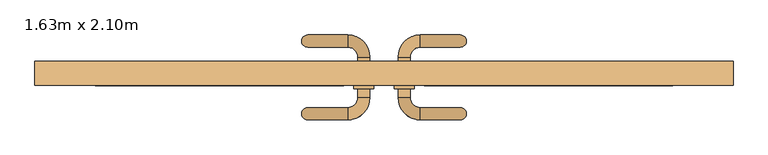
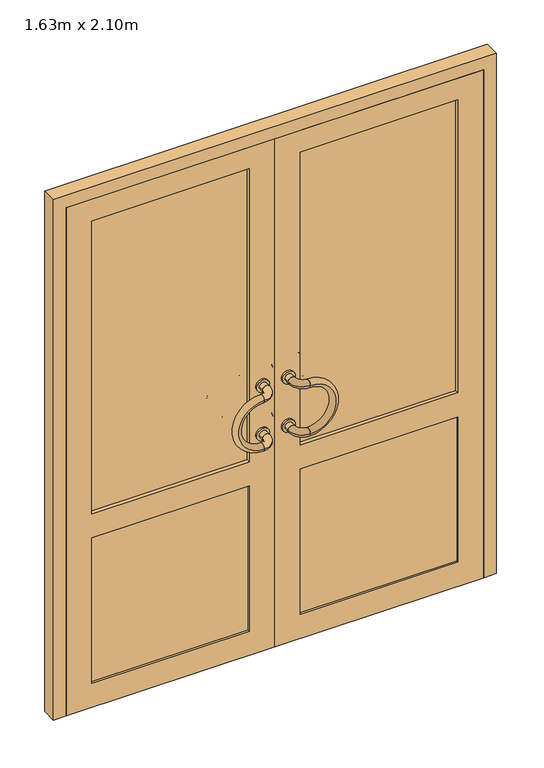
"""IFC4 building model written with IfcOpenShell, lengths in millimetres: door geometry, PVC Double - Panneaux vitrés haut : 1.63m x 2.10m."""

from ifc_helpers import new_model, si_unit, point, frame, frame_2d, origin, place, context, project, spatial, polyline, circle_curve, ellipse_curve, trimmed, segment, composite_curve, outline, extrude, faceted_brep, source, transform, mapped, element, save
from ifc_brep_helpers import plane_surface, revolved_surface, advanced_brep


def door_1_63m_x_2_10m_9088033a(model_context):
    return source(origin(), model_context, "Body", "SolidModel", [
        extrude(outline(composite_curve([segment(trimmed(circle_curve(frame_2d((1100.0, -50.0)), 25.0), [point((1100.0, -25.0))], [point((1100.0, -75.0))], False, "CARTESIAN"), True, "CONTINUOUS"), segment(trimmed(circle_curve(frame_2d((1100.0, -50.0)), 25.0), [point((1100.0, -75.0))], [point((1100.0, -25.0))], False, "CARTESIAN"), True, "CONTINUOUS")], self_intersect=False), holes=[composite_curve([segment(trimmed(circle_curve(frame_2d((1100.0, -50.0)), 15.0), [point((1100.0, -35.0))], [point((1100.0, -65.0))], True, "CARTESIAN"), True, "CONTINUOUS"), segment(trimmed(circle_curve(frame_2d((1100.0, -50.0)), 15.0), [point((1100.0, -65.0))], [point((1100.0, -35.0))], True, "CARTESIAN"), True, "CONTINUOUS")], self_intersect=False)]), frame((0.0, -45.0, 0.0), z_axis=(0.0, 1.0, 0.0), x_axis=(0.0, 0.0, 1.0)), (0.0, 0.0, 1.0), 8.0),
        extrude(outline(composite_curve([segment(trimmed(circle_curve(frame_2d((900.0, -50.0)), 25.0), [point((900.0, -25.0))], [point((900.0, -75.0))], False, "CARTESIAN"), True, "CONTINUOUS"), segment(trimmed(circle_curve(frame_2d((900.0, -50.0)), 25.0), [point((900.0, -75.0))], [point((900.0, -25.0))], False, "CARTESIAN"), True, "CONTINUOUS")], self_intersect=False), holes=[composite_curve([segment(trimmed(circle_curve(frame_2d((900.0, -50.0)), 15.0), [point((900.0, -35.0))], [point((900.0, -65.0))], True, "CARTESIAN"), True, "CONTINUOUS"), segment(trimmed(circle_curve(frame_2d((900.0, -50.0)), 15.0), [point((900.0, -65.0))], [point((900.0, -35.0))], True, "CARTESIAN"), True, "CONTINUOUS")], self_intersect=False)]), frame((0.0, -45.0, 0.0), z_axis=(0.0, 1.0, 0.0), x_axis=(0.0, 0.0, 1.0)), (0.0, 0.0, 1.0), 8.0),
        extrude(outline(composite_curve([segment(trimmed(circle_curve(frame_2d((1100.0, -50.0)), 25.0), [point((1100.0, -25.0))], [point((1100.0, -75.0))], False, "CARTESIAN"), True, "CONTINUOUS"), segment(trimmed(circle_curve(frame_2d((1100.0, -50.0)), 25.0), [point((1100.0, -75.0))], [point((1100.0, -25.0))], False, "CARTESIAN"), True, "CONTINUOUS")], self_intersect=False), holes=[composite_curve([segment(trimmed(circle_curve(frame_2d((1100.0, -50.0)), 15.0), [point((1100.0, -35.0))], [point((1100.0, -65.0))], True, "CARTESIAN"), True, "CONTINUOUS"), segment(trimmed(circle_curve(frame_2d((1100.0, -50.0)), 15.0), [point((1100.0, -65.0))], [point((1100.0, -35.0))], True, "CARTESIAN"), True, "CONTINUOUS")], self_intersect=False)]), frame((0.0, -93.0, 0.0), z_axis=(0.0, 1.0, 0.0), x_axis=(0.0, 0.0, 1.0)), (0.0, 0.0, 1.0), 8.0),
        extrude(outline(composite_curve([segment(trimmed(circle_curve(frame_2d((900.0, -50.0)), 25.0), [point((900.0, -25.0))], [point((900.0, -75.0))], False, "CARTESIAN"), True, "CONTINUOUS"), segment(trimmed(circle_curve(frame_2d((900.0, -50.0)), 25.0), [point((900.0, -75.0))], [point((900.0, -25.0))], False, "CARTESIAN"), True, "CONTINUOUS")], self_intersect=False), holes=[composite_curve([segment(trimmed(circle_curve(frame_2d((900.0, -50.0)), 15.0), [point((900.0, -35.0))], [point((900.0, -65.0))], True, "CARTESIAN"), True, "CONTINUOUS"), segment(trimmed(circle_curve(frame_2d((900.0, -50.0)), 15.0), [point((900.0, -65.0))], [point((900.0, -35.0))], True, "CARTESIAN"), True, "CONTINUOUS")], self_intersect=False)]), frame((0.0, -93.0, 0.0), z_axis=(0.0, 1.0, 0.0), x_axis=(0.0, 0.0, 1.0)), (0.0, 0.0, 1.0), 8.0),
        advanced_brep(
        [(-90.0, 40.0, 1100.0), (-90.0, 10.0, 1100.0), (-90.0, 40.0, 900.0), (-90.0, 10.0, 900.0)],
        [
            (0, 1, circle_curve(frame((-90.0, 25.0, 1100.0), z_axis=(1.0, 0.0, 0.0), x_axis=(0.0, -1.0, 0.0)), 15.0)),
            (1, 0, circle_curve(frame((-90.0, 25.0, 1100.0), z_axis=(1.0, 0.0, 0.0), x_axis=(0.0, -1.0, 0.0)), 15.0)),
            (2, 3, circle_curve(frame((-90.0, 25.0, 900.0), z_axis=(1.0, 0.0, 0.0), x_axis=(0.0, -1.0, 0.0)), 15.0)),
            (3, 2, circle_curve(frame((-90.0, 25.0, 900.0), z_axis=(1.0, 0.0, 0.0), x_axis=(0.0, -1.0, 0.0)), 15.0)),
            (2, 0, circle_curve(frame((-90.0, 40.0, 1000.0), z_axis=(0.0, 1.0, 0.0), x_axis=(0.0, 0.0, 1.0)), 100.0)),
            (1, 3, circle_curve(frame((-90.0, 10.0, 1000.0), z_axis=(0.0, -1.0, 0.0), x_axis=(0.0, 0.0, 1.0)), 100.0)),
        ],
        [
            plane_surface(frame((-90.0, 25.0, 1000.0), z_axis=(1.0, 0.0, 0.0), x_axis=(0.0, 0.0, 1.0))),
            plane_surface(frame((-90.0, 25.0, 1000.0), z_axis=(1.0, 0.0, 0.0), x_axis=(0.0, 0.0, -1.0))),
            revolved_surface(trimmed(ellipse_curve(frame((-90.0, 25.0, 1100.0), z_axis=(-1.0, 0.0, 0.0), x_axis=(0.0, -1.0, 0.0)), 15.0, 15.0), [point((-90.0, 40.0, 1100.0))], [point((-90.0, 10.0, 1100.0))], True, "CARTESIAN"), (-90.0, 25.0, 1000.0), (0.0, 1.0, 0.0)),
            revolved_surface(trimmed(ellipse_curve(frame((-90.0, 25.0, 1100.0), z_axis=(-1.0, 0.0, 0.0), x_axis=(0.0, -1.0, 0.0)), 15.0, 15.0), [point((-90.0, 10.0, 1100.0))], [point((-90.0, 40.0, 1100.0))], True, "CARTESIAN"), (-90.0, 25.0, 1000.0), (0.0, 1.0, 0.0)),
        ],
        [
            (0, [[1, 2]]),
            (1, [[3, 4]]),
            (2, [[-3, 5, -2, 6]]),
            (3, [[-4, -6, -1, -5]]),
        ],
    ),
        advanced_brep(
        [(-65.0, -15.0, 1100.0), (-35.0, -15.0, 1100.0), (-90.0, 10.0, 1100.0), (-90.0, 40.0, 1100.0)],
        [
            (0, 1, circle_curve(frame((-50.0, -15.0, 1100.0), z_axis=(0.0, -1.0, 0.0), x_axis=(1.0, 0.0, 0.0)), 15.0)),
            (1, 0, circle_curve(frame((-50.0, -15.0, 1100.0), z_axis=(0.0, -1.0, 0.0), x_axis=(1.0, 0.0, 0.0)), 15.0)),
            (2, 3, circle_curve(frame((-90.0, 25.0, 1100.0), z_axis=(-1.0, 0.0, 0.0), x_axis=(0.0, 1.0, 0.0)), 15.0)),
            (3, 2, circle_curve(frame((-90.0, 25.0, 1100.0), z_axis=(-1.0, 0.0, 0.0), x_axis=(0.0, 1.0, 0.0)), 15.0)),
            (2, 0, circle_curve(frame((-90.0, -15.0, 1100.0), z_axis=(0.0, 0.0, -1.0), x_axis=(1.0, 0.0, 0.0)), 25.0)),
            (1, 3, circle_curve(frame((-90.0, -15.0, 1100.0), z_axis=(0.0, 0.0, 1.0), x_axis=(1.0, 0.0, 0.0)), 55.0)),
        ],
        [
            plane_surface(frame((-90.0, -15.0, 1100.0), z_axis=(0.0, -1.0, 0.0), x_axis=(1.0, 0.0, 0.0))),
            plane_surface(frame((-90.0, -15.0, 1100.0), z_axis=(-1.0, 0.0, 0.0), x_axis=(0.0, 1.0, 0.0))),
            revolved_surface(trimmed(ellipse_curve(frame((-50.0, -15.0, 1100.0), z_axis=(0.0, 1.0, 0.0), x_axis=(1.0, 0.0, 0.0)), 15.0, 15.0), [point((-65.0, -15.0, 1100.0))], [point((-35.0, -15.0, 1100.0))], True, "CARTESIAN"), (-90.0, -15.0, 1100.0), (0.0, 0.0, -1.0)),
            revolved_surface(trimmed(ellipse_curve(frame((-50.0, -15.0, 1100.0), z_axis=(0.0, 1.0, 0.0), x_axis=(1.0, 0.0, 0.0)), 15.0, 15.0), [point((-35.0, -15.0, 1100.0))], [point((-65.0, -15.0, 1100.0))], True, "CARTESIAN"), (-90.0, -15.0, 1100.0), (0.0, 0.0, -1.0)),
        ],
        [
            (0, [[1, 2]]),
            (1, [[3, 4]]),
            (2, [[-3, 5, -2, 6]]),
            (3, [[-4, -6, -1, -5]]),
        ],
    ),
        advanced_brep(
        [(-65.0, -15.0, 900.0), (-35.0, -15.0, 900.0), (-90.0, 10.0, 900.0), (-90.0, 40.0, 900.0)],
        [
            (0, 1, circle_curve(frame((-50.0, -15.0, 900.0), z_axis=(0.0, -1.0, 0.0), x_axis=(1.0, 0.0, 0.0)), 15.0)),
            (1, 0, circle_curve(frame((-50.0, -15.0, 900.0), z_axis=(0.0, -1.0, 0.0), x_axis=(1.0, 0.0, 0.0)), 15.0)),
            (2, 3, circle_curve(frame((-90.0, 25.0, 900.0), z_axis=(-1.0, 0.0, 0.0), x_axis=(0.0, 1.0, 0.0)), 15.0)),
            (3, 2, circle_curve(frame((-90.0, 25.0, 900.0), z_axis=(-1.0, 0.0, 0.0), x_axis=(0.0, 1.0, 0.0)), 15.0)),
            (2, 0, circle_curve(frame((-90.0, -15.0, 900.0), z_axis=(0.0, 0.0, -1.0), x_axis=(1.0, 0.0, 0.0)), 25.0)),
            (1, 3, circle_curve(frame((-90.0, -15.0, 900.0), z_axis=(0.0, 0.0, 1.0), x_axis=(1.0, 0.0, 0.0)), 55.0)),
        ],
        [
            plane_surface(frame((-90.0, -15.0, 1100.0), z_axis=(0.0, -1.0, 0.0), x_axis=(1.0, 0.0, 0.0))),
            plane_surface(frame((-90.0, -15.0, 1100.0), z_axis=(-1.0, 0.0, 0.0), x_axis=(0.0, 1.0, 0.0))),
            revolved_surface(trimmed(ellipse_curve(frame((-50.0, -15.0, 900.0), z_axis=(0.0, 1.0, 0.0), x_axis=(1.0, 0.0, 0.0)), 15.0, 15.0), [point((-65.0, -15.0, 900.0))], [point((-35.0, -15.0, 900.0))], True, "CARTESIAN"), (-90.0, -15.0, 1100.0), (0.0, 0.0, -1.0)),
            revolved_surface(trimmed(ellipse_curve(frame((-50.0, -15.0, 900.0), z_axis=(0.0, 1.0, 0.0), x_axis=(1.0, 0.0, 0.0)), 15.0, 15.0), [point((-35.0, -15.0, 900.0))], [point((-65.0, -15.0, 900.0))], True, "CARTESIAN"), (-90.0, -15.0, 1100.0), (0.0, 0.0, -1.0)),
        ],
        [
            (0, [[1, 2]]),
            (1, [[3, 4]]),
            (2, [[-3, 5, -2, 6]]),
            (3, [[-4, -6, -1, -5]]),
        ],
    ),
        extrude(outline(composite_curve([segment(trimmed(circle_curve(frame_2d((1100.0, -50.0)), 15.0), [point((1100.0, -35.0))], [point((1100.0, -65.0))], False, "CARTESIAN"), True, "CONTINUOUS"), segment(trimmed(circle_curve(frame_2d((1100.0, -50.0)), 15.0), [point((1100.0, -65.0))], [point((1100.0, -35.0))], False, "CARTESIAN"), True, "CONTINUOUS")], self_intersect=False)), frame((0.0, -45.0, 0.0), z_axis=(0.0, 1.0, 0.0), x_axis=(0.0, 0.0, 1.0)), (0.0, 0.0, 1.0), 30.0),
        extrude(outline(composite_curve([segment(trimmed(circle_curve(frame_2d((900.0, -50.0)), 15.0), [point((900.0, -35.0))], [point((900.0, -65.0))], False, "CARTESIAN"), True, "CONTINUOUS"), segment(trimmed(circle_curve(frame_2d((900.0, -50.0)), 15.0), [point((900.0, -65.0))], [point((900.0, -35.0))], False, "CARTESIAN"), True, "CONTINUOUS")], self_intersect=False)), frame((0.0, -45.0, 0.0), z_axis=(0.0, 1.0, 0.0), x_axis=(0.0, 0.0, 1.0)), (0.0, 0.0, 1.0), 30.0),
        advanced_brep(
        [(-90.0, -140.0, 1100.0), (-90.0, -170.0, 1100.0), (-90.0, -140.0, 900.0), (-90.0, -170.0, 900.0)],
        [
            (0, 1, circle_curve(frame((-90.0, -155.0, 1100.0), z_axis=(1.0, 0.0, 0.0), x_axis=(0.0, -1.0, 0.0)), 15.0)),
            (1, 0, circle_curve(frame((-90.0, -155.0, 1100.0), z_axis=(1.0, 0.0, 0.0), x_axis=(0.0, -1.0, 0.0)), 15.0)),
            (2, 3, circle_curve(frame((-90.0, -155.0, 900.0), z_axis=(1.0, 0.0, 0.0), x_axis=(0.0, -1.0, 0.0)), 15.0)),
            (3, 2, circle_curve(frame((-90.0, -155.0, 900.0), z_axis=(1.0, 0.0, 0.0), x_axis=(0.0, -1.0, 0.0)), 15.0)),
            (2, 0, circle_curve(frame((-90.0, -140.0, 1000.0), z_axis=(0.0, 1.0, 0.0), x_axis=(0.0, 0.0, 1.0)), 100.0)),
            (1, 3, circle_curve(frame((-90.0, -170.0, 1000.0), z_axis=(0.0, -1.0, 0.0), x_axis=(0.0, 0.0, 1.0)), 100.0)),
        ],
        [
            plane_surface(frame((-90.0, -170.0, 1000.0), z_axis=(1.0, 0.0, 0.0), x_axis=(0.0, 0.0, 1.0))),
            plane_surface(frame((-90.0, -170.0, 1000.0), z_axis=(1.0, 0.0, 0.0), x_axis=(0.0, 0.0, -1.0))),
            revolved_surface(trimmed(ellipse_curve(frame((-90.0, -155.0, 1100.0), z_axis=(-1.0, 0.0, 0.0), x_axis=(0.0, -1.0, 0.0)), 15.0, 15.0), [point((-90.0, -140.0, 1100.0))], [point((-90.0, -170.0, 1100.0))], True, "CARTESIAN"), (-90.0, -170.0, 1000.0), (0.0, 1.0, 0.0)),
            revolved_surface(trimmed(ellipse_curve(frame((-90.0, -155.0, 1100.0), z_axis=(-1.0, 0.0, 0.0), x_axis=(0.0, -1.0, 0.0)), 15.0, 15.0), [point((-90.0, -170.0, 1100.0))], [point((-90.0, -140.0, 1100.0))], True, "CARTESIAN"), (-90.0, -170.0, 1000.0), (0.0, 1.0, 0.0)),
        ],
        [
            (0, [[1, 2]]),
            (1, [[3, 4]]),
            (2, [[-3, 5, -2, 6]]),
            (3, [[-4, -6, -1, -5]]),
        ],
    ),
        advanced_brep(
        [(-35.0, -115.0, 1100.0), (-65.0, -115.0, 1100.0), (-90.0, -170.0, 1100.0), (-90.0, -140.0, 1100.0)],
        [
            (0, 1, circle_curve(frame((-50.0, -115.0, 1100.0), z_axis=(0.0, 1.0, 0.0), x_axis=(-1.0, 0.0, 0.0)), 15.0)),
            (1, 0, circle_curve(frame((-50.0, -115.0, 1100.0), z_axis=(0.0, 1.0, 0.0), x_axis=(-1.0, 0.0, 0.0)), 15.0)),
            (2, 3, circle_curve(frame((-90.0, -155.0, 1100.0), z_axis=(-1.0, 0.0, 0.0), x_axis=(0.0, 1.0, 0.0)), 15.0)),
            (3, 2, circle_curve(frame((-90.0, -155.0, 1100.0), z_axis=(-1.0, 0.0, 0.0), x_axis=(0.0, 1.0, 0.0)), 15.0)),
            (2, 0, circle_curve(frame((-90.0, -115.0, 1100.0), z_axis=(0.0, 0.0, 1.0), x_axis=(1.0, 0.0, 0.0)), 55.0)),
            (1, 3, circle_curve(frame((-90.0, -115.0, 1100.0), z_axis=(0.0, 0.0, -1.0), x_axis=(1.0, 0.0, 0.0)), 25.0)),
        ],
        [
            plane_surface(frame((-90.0, -115.0, 1100.0), z_axis=(0.0, 1.0, 0.0), x_axis=(1.0, 0.0, 0.0))),
            plane_surface(frame((-90.0, -115.0, 1100.0), z_axis=(-1.0, 0.0, 0.0), x_axis=(0.0, -1.0, 0.0))),
            revolved_surface(trimmed(ellipse_curve(frame((-50.0, -115.0, 1100.0), z_axis=(0.0, -1.0, 0.0), x_axis=(-1.0, 0.0, 0.0)), 15.0, 15.0), [point((-35.0, -115.0, 1100.0))], [point((-65.0, -115.0, 1100.0))], True, "CARTESIAN"), (-90.0, -115.0, 1100.0), (0.0, 0.0, 1.0)),
            revolved_surface(trimmed(ellipse_curve(frame((-50.0, -115.0, 1100.0), z_axis=(0.0, -1.0, 0.0), x_axis=(-1.0, 0.0, 0.0)), 15.0, 15.0), [point((-65.0, -115.0, 1100.0))], [point((-35.0, -115.0, 1100.0))], True, "CARTESIAN"), (-90.0, -115.0, 1100.0), (0.0, 0.0, 1.0)),
        ],
        [
            (0, [[1, 2]]),
            (1, [[3, 4]]),
            (2, [[-3, 5, -2, 6]]),
            (3, [[-4, -6, -1, -5]]),
        ],
    ),
        advanced_brep(
        [(-35.0, -115.0, 900.0), (-65.0, -115.0, 900.0), (-90.0, -170.0, 900.0), (-90.0, -140.0, 900.0)],
        [
            (0, 1, circle_curve(frame((-50.0, -115.0, 900.0), z_axis=(0.0, 1.0, 0.0), x_axis=(-1.0, 0.0, 0.0)), 15.0)),
            (1, 0, circle_curve(frame((-50.0, -115.0, 900.0), z_axis=(0.0, 1.0, 0.0), x_axis=(-1.0, 0.0, 0.0)), 15.0)),
            (2, 3, circle_curve(frame((-90.0, -155.0, 900.0), z_axis=(-1.0, 0.0, 0.0), x_axis=(0.0, 1.0, 0.0)), 15.0)),
            (3, 2, circle_curve(frame((-90.0, -155.0, 900.0), z_axis=(-1.0, 0.0, 0.0), x_axis=(0.0, 1.0, 0.0)), 15.0)),
            (2, 0, circle_curve(frame((-90.0, -115.0, 900.0), z_axis=(0.0, 0.0, 1.0), x_axis=(1.0, 0.0, 0.0)), 55.0)),
            (1, 3, circle_curve(frame((-90.0, -115.0, 900.0), z_axis=(0.0, 0.0, -1.0), x_axis=(1.0, 0.0, 0.0)), 25.0)),
        ],
        [
            plane_surface(frame((-90.0, -115.0, 1100.0), z_axis=(0.0, 1.0, 0.0), x_axis=(1.0, 0.0, 0.0))),
            plane_surface(frame((-90.0, -115.0, 1100.0), z_axis=(-1.0, 0.0, 0.0), x_axis=(0.0, -1.0, 0.0))),
            revolved_surface(trimmed(ellipse_curve(frame((-50.0, -115.0, 900.0), z_axis=(0.0, -1.0, 0.0), x_axis=(-1.0, 0.0, 0.0)), 15.0, 15.0), [point((-35.0, -115.0, 900.0))], [point((-65.0, -115.0, 900.0))], True, "CARTESIAN"), (-90.0, -115.0, 1100.0), (0.0, 0.0, 1.0)),
            revolved_surface(trimmed(ellipse_curve(frame((-50.0, -115.0, 900.0), z_axis=(0.0, -1.0, 0.0), x_axis=(-1.0, 0.0, 0.0)), 15.0, 15.0), [point((-65.0, -115.0, 900.0))], [point((-35.0, -115.0, 900.0))], True, "CARTESIAN"), (-90.0, -115.0, 1100.0), (0.0, 0.0, 1.0)),
        ],
        [
            (0, [[1, 2]]),
            (1, [[3, 4]]),
            (2, [[-3, 5, -2, 6]]),
            (3, [[-4, -6, -1, -5]]),
        ],
    ),
        extrude(outline(composite_curve([segment(trimmed(circle_curve(frame_2d((1100.0, -50.0)), 15.0), [point((1100.0, -35.0))], [point((1100.0, -65.0))], False, "CARTESIAN"), True, "CONTINUOUS"), segment(trimmed(circle_curve(frame_2d((1100.0, -50.0)), 15.0), [point((1100.0, -65.0))], [point((1100.0, -35.0))], False, "CARTESIAN"), True, "CONTINUOUS")], self_intersect=False)), frame((0.0, -115.0, 0.0), z_axis=(0.0, 1.0, 0.0), x_axis=(0.0, 0.0, 1.0)), (0.0, 0.0, 1.0), 30.0),
        extrude(outline(composite_curve([segment(trimmed(circle_curve(frame_2d((900.0, -50.0)), 15.0), [point((900.0, -35.0))], [point((900.0, -65.0))], False, "CARTESIAN"), True, "CONTINUOUS"), segment(trimmed(circle_curve(frame_2d((900.0, -50.0)), 15.0), [point((900.0, -65.0))], [point((900.0, -35.0))], False, "CARTESIAN"), True, "CONTINUOUS")], self_intersect=False)), frame((0.0, -115.0, 0.0), z_axis=(0.0, 1.0, 0.0), x_axis=(0.0, 0.0, 1.0)), (0.0, 0.0, 1.0), 30.0),
        extrude(outline(composite_curve([segment(trimmed(circle_curve(frame_2d((1100.0, 50.0)), 25.0), [point((1100.0, 25.0))], [point((1100.0, 75.0))], False, "CARTESIAN"), True, "CONTINUOUS"), segment(trimmed(circle_curve(frame_2d((1100.0, 50.0)), 25.0), [point((1100.0, 75.0))], [point((1100.0, 25.0))], False, "CARTESIAN"), True, "CONTINUOUS")], self_intersect=False), holes=[composite_curve([segment(trimmed(circle_curve(frame_2d((1100.0, 50.0)), 15.0), [point((1100.0, 35.0))], [point((1100.0, 65.0))], True, "CARTESIAN"), True, "CONTINUOUS"), segment(trimmed(circle_curve(frame_2d((1100.0, 50.0)), 15.0), [point((1100.0, 65.0))], [point((1100.0, 35.0))], True, "CARTESIAN"), True, "CONTINUOUS")], self_intersect=False)]), frame((0.0, -45.0, 0.0), z_axis=(0.0, 1.0, 0.0), x_axis=(0.0, 0.0, 1.0)), (0.0, 0.0, 1.0), 8.0),
        extrude(outline(composite_curve([segment(trimmed(circle_curve(frame_2d((900.0, 50.0)), 25.0), [point((900.0, 25.0))], [point((900.0, 75.0))], False, "CARTESIAN"), True, "CONTINUOUS"), segment(trimmed(circle_curve(frame_2d((900.0, 50.0)), 25.0), [point((900.0, 75.0))], [point((900.0, 25.0))], False, "CARTESIAN"), True, "CONTINUOUS")], self_intersect=False), holes=[composite_curve([segment(trimmed(circle_curve(frame_2d((900.0, 50.0)), 15.0), [point((900.0, 35.0))], [point((900.0, 65.0))], True, "CARTESIAN"), True, "CONTINUOUS"), segment(trimmed(circle_curve(frame_2d((900.0, 50.0)), 15.0), [point((900.0, 65.0))], [point((900.0, 35.0))], True, "CARTESIAN"), True, "CONTINUOUS")], self_intersect=False)]), frame((0.0, -45.0, 0.0), z_axis=(0.0, 1.0, 0.0), x_axis=(0.0, 0.0, 1.0)), (0.0, 0.0, 1.0), 8.0),
        extrude(outline(composite_curve([segment(trimmed(circle_curve(frame_2d((1100.0, 50.0)), 25.0), [point((1100.0, 25.0))], [point((1100.0, 75.0))], False, "CARTESIAN"), True, "CONTINUOUS"), segment(trimmed(circle_curve(frame_2d((1100.0, 50.0)), 25.0), [point((1100.0, 75.0))], [point((1100.0, 25.0))], False, "CARTESIAN"), True, "CONTINUOUS")], self_intersect=False), holes=[composite_curve([segment(trimmed(circle_curve(frame_2d((1100.0, 50.0)), 15.0), [point((1100.0, 35.0))], [point((1100.0, 65.0))], True, "CARTESIAN"), True, "CONTINUOUS"), segment(trimmed(circle_curve(frame_2d((1100.0, 50.0)), 15.0), [point((1100.0, 65.0))], [point((1100.0, 35.0))], True, "CARTESIAN"), True, "CONTINUOUS")], self_intersect=False)]), frame((0.0, -93.0, 0.0), z_axis=(0.0, 1.0, 0.0), x_axis=(0.0, 0.0, 1.0)), (0.0, 0.0, 1.0), 8.0),
        extrude(outline(composite_curve([segment(trimmed(circle_curve(frame_2d((900.0, 50.0)), 25.0), [point((900.0, 25.0))], [point((900.0, 75.0))], False, "CARTESIAN"), True, "CONTINUOUS"), segment(trimmed(circle_curve(frame_2d((900.0, 50.0)), 25.0), [point((900.0, 75.0))], [point((900.0, 25.0))], False, "CARTESIAN"), True, "CONTINUOUS")], self_intersect=False), holes=[composite_curve([segment(trimmed(circle_curve(frame_2d((900.0, 50.0)), 15.0), [point((900.0, 35.0))], [point((900.0, 65.0))], True, "CARTESIAN"), True, "CONTINUOUS"), segment(trimmed(circle_curve(frame_2d((900.0, 50.0)), 15.0), [point((900.0, 65.0))], [point((900.0, 35.0))], True, "CARTESIAN"), True, "CONTINUOUS")], self_intersect=False)]), frame((0.0, -93.0, 0.0), z_axis=(0.0, 1.0, 0.0), x_axis=(0.0, 0.0, 1.0)), (0.0, 0.0, 1.0), 8.0),
        advanced_brep(
        [(90.0, 40.0, 1100.0), (90.0, 10.0, 1100.0), (90.0, 40.0, 900.0), (90.0, 10.0, 900.0)],
        [
            (0, 1, circle_curve(frame((90.0, 25.0, 1100.0), z_axis=(-1.0, 0.0, 0.0), x_axis=(0.0, -1.0, 0.0)), 15.0)),
            (1, 0, circle_curve(frame((90.0, 25.0, 1100.0), z_axis=(-1.0, 0.0, 0.0), x_axis=(0.0, -1.0, 0.0)), 15.0)),
            (2, 3, circle_curve(frame((90.0, 25.0, 900.0), z_axis=(-1.0, 0.0, 0.0), x_axis=(0.0, -1.0, 0.0)), 15.0)),
            (3, 2, circle_curve(frame((90.0, 25.0, 900.0), z_axis=(-1.0, 0.0, 0.0), x_axis=(0.0, -1.0, 0.0)), 15.0)),
            (3, 1, circle_curve(frame((90.0, 10.0, 1000.0), z_axis=(0.0, -1.0, 0.0), x_axis=(0.0, 0.0, 1.0)), 100.0)),
            (0, 2, circle_curve(frame((90.0, 40.0, 1000.0), z_axis=(0.0, 1.0, 0.0), x_axis=(0.0, 0.0, 1.0)), 100.0)),
        ],
        [
            plane_surface(frame((90.0, 25.0, 1000.0), z_axis=(-1.0, 0.0, 0.0), x_axis=(0.0, 0.0, 1.0))),
            plane_surface(frame((90.0, 25.0, 1000.0), z_axis=(-1.0, 0.0, 0.0), x_axis=(0.0, 0.0, -1.0))),
            revolved_surface(trimmed(ellipse_curve(frame((90.0, 25.0, 1100.0), z_axis=(-1.0, 0.0, 0.0), x_axis=(0.0, -1.0, 0.0)), 15.0, 15.0), [point((90.0, 40.0, 1100.0))], [point((90.0, 10.0, 1100.0))], True, "CARTESIAN"), (90.0, 25.0, 1000.0), (0.0, 1.0, 0.0)),
            revolved_surface(trimmed(ellipse_curve(frame((90.0, 25.0, 1100.0), z_axis=(-1.0, 0.0, 0.0), x_axis=(0.0, -1.0, 0.0)), 15.0, 15.0), [point((90.0, 10.0, 1100.0))], [point((90.0, 40.0, 1100.0))], True, "CARTESIAN"), (90.0, 25.0, 1000.0), (0.0, 1.0, 0.0)),
        ],
        [
            (0, [[1, 2]]),
            (1, [[3, 4]]),
            (2, [[5, -1, 6, -4]]),
            (3, [[-6, -2, -5, -3]]),
        ],
    ),
        advanced_brep(
        [(65.0, -15.0, 1100.0), (35.0, -15.0, 1100.0), (90.0, 10.0, 1100.0), (90.0, 40.0, 1100.0)],
        [
            (0, 1, circle_curve(frame((50.0, -15.0, 1100.0), z_axis=(0.0, -1.0, 0.0), x_axis=(-1.0, 0.0, 0.0)), 15.0)),
            (1, 0, circle_curve(frame((50.0, -15.0, 1100.0), z_axis=(0.0, -1.0, 0.0), x_axis=(-1.0, 0.0, 0.0)), 15.0)),
            (2, 3, circle_curve(frame((90.0, 25.0, 1100.0), z_axis=(1.0, 0.0, 0.0), x_axis=(0.0, 1.0, 0.0)), 15.0)),
            (3, 2, circle_curve(frame((90.0, 25.0, 1100.0), z_axis=(1.0, 0.0, 0.0), x_axis=(0.0, 1.0, 0.0)), 15.0)),
            (3, 1, circle_curve(frame((90.0, -15.0, 1100.0), z_axis=(0.0, 0.0, 1.0), x_axis=(-1.0, 0.0, 0.0)), 55.0)),
            (0, 2, circle_curve(frame((90.0, -15.0, 1100.0), z_axis=(0.0, 0.0, -1.0), x_axis=(-1.0, 0.0, 0.0)), 25.0)),
        ],
        [
            plane_surface(frame((90.0, -15.0, 1100.0), z_axis=(0.0, -1.0, 0.0), x_axis=(-1.0, 0.0, 0.0))),
            plane_surface(frame((90.0, -15.0, 1100.0), z_axis=(1.0, 0.0, 0.0), x_axis=(0.0, 1.0, 0.0))),
            revolved_surface(trimmed(ellipse_curve(frame((50.0, -15.0, 1100.0), z_axis=(0.0, -1.0, 0.0), x_axis=(-1.0, 0.0, 0.0)), 15.0, 15.0), [point((65.0, -15.0, 1100.0))], [point((35.0, -15.0, 1100.0))], True, "CARTESIAN"), (90.0, -15.0, 1100.0), (0.0, 0.0, -1.0)),
            revolved_surface(trimmed(ellipse_curve(frame((50.0, -15.0, 1100.0), z_axis=(0.0, -1.0, 0.0), x_axis=(-1.0, 0.0, 0.0)), 15.0, 15.0), [point((35.0, -15.0, 1100.0))], [point((65.0, -15.0, 1100.0))], True, "CARTESIAN"), (90.0, -15.0, 1100.0), (0.0, 0.0, -1.0)),
        ],
        [
            (0, [[1, 2]]),
            (1, [[3, 4]]),
            (2, [[5, -1, 6, -4]]),
            (3, [[-6, -2, -5, -3]]),
        ],
    ),
        advanced_brep(
        [(65.0, -15.0, 900.0), (35.0, -15.0, 900.0), (90.0, 10.0, 900.0), (90.0, 40.0, 900.0)],
        [
            (0, 1, circle_curve(frame((50.0, -15.0, 900.0), z_axis=(0.0, -1.0, 0.0), x_axis=(-1.0, 0.0, 0.0)), 15.0)),
            (1, 0, circle_curve(frame((50.0, -15.0, 900.0), z_axis=(0.0, -1.0, 0.0), x_axis=(-1.0, 0.0, 0.0)), 15.0)),
            (2, 3, circle_curve(frame((90.0, 25.0, 900.0), z_axis=(1.0, 0.0, 0.0), x_axis=(0.0, 1.0, 0.0)), 15.0)),
            (3, 2, circle_curve(frame((90.0, 25.0, 900.0), z_axis=(1.0, 0.0, 0.0), x_axis=(0.0, 1.0, 0.0)), 15.0)),
            (3, 1, circle_curve(frame((90.0, -15.0, 900.0), z_axis=(0.0, 0.0, 1.0), x_axis=(-1.0, 0.0, 0.0)), 55.0)),
            (0, 2, circle_curve(frame((90.0, -15.0, 900.0), z_axis=(0.0, 0.0, -1.0), x_axis=(-1.0, 0.0, 0.0)), 25.0)),
        ],
        [
            plane_surface(frame((90.0, -15.0, 1100.0), z_axis=(0.0, -1.0, 0.0), x_axis=(-1.0, 0.0, 0.0))),
            plane_surface(frame((90.0, -15.0, 1100.0), z_axis=(1.0, 0.0, 0.0), x_axis=(0.0, 1.0, 0.0))),
            revolved_surface(trimmed(ellipse_curve(frame((50.0, -15.0, 900.0), z_axis=(0.0, -1.0, 0.0), x_axis=(-1.0, 0.0, 0.0)), 15.0, 15.0), [point((65.0, -15.0, 900.0))], [point((35.0, -15.0, 900.0))], True, "CARTESIAN"), (90.0, -15.0, 1100.0), (0.0, 0.0, -1.0)),
            revolved_surface(trimmed(ellipse_curve(frame((50.0, -15.0, 900.0), z_axis=(0.0, -1.0, 0.0), x_axis=(-1.0, 0.0, 0.0)), 15.0, 15.0), [point((35.0, -15.0, 900.0))], [point((65.0, -15.0, 900.0))], True, "CARTESIAN"), (90.0, -15.0, 1100.0), (0.0, 0.0, -1.0)),
        ],
        [
            (0, [[1, 2]]),
            (1, [[3, 4]]),
            (2, [[5, -1, 6, -4]]),
            (3, [[-6, -2, -5, -3]]),
        ],
    ),
        extrude(outline(composite_curve([segment(trimmed(circle_curve(frame_2d((1100.0, 50.0)), 15.0), [point((1100.0, 35.0))], [point((1100.0, 65.0))], False, "CARTESIAN"), True, "CONTINUOUS"), segment(trimmed(circle_curve(frame_2d((1100.0, 50.0)), 15.0), [point((1100.0, 65.0))], [point((1100.0, 35.0))], False, "CARTESIAN"), True, "CONTINUOUS")], self_intersect=False)), frame((0.0, -45.0, 0.0), z_axis=(0.0, 1.0, 0.0), x_axis=(0.0, 0.0, 1.0)), (0.0, 0.0, 1.0), 30.0),
        extrude(outline(composite_curve([segment(trimmed(circle_curve(frame_2d((900.0, 50.0)), 15.0), [point((900.0, 35.0))], [point((900.0, 65.0))], False, "CARTESIAN"), True, "CONTINUOUS"), segment(trimmed(circle_curve(frame_2d((900.0, 50.0)), 15.0), [point((900.0, 65.0))], [point((900.0, 35.0))], False, "CARTESIAN"), True, "CONTINUOUS")], self_intersect=False)), frame((0.0, -45.0, 0.0), z_axis=(0.0, 1.0, 0.0), x_axis=(0.0, 0.0, 1.0)), (0.0, 0.0, 1.0), 30.0),
        advanced_brep(
        [(90.0, -140.0, 1100.0), (90.0, -170.0, 1100.0), (90.0, -140.0, 900.0), (90.0, -170.0, 900.0)],
        [
            (0, 1, circle_curve(frame((90.0, -155.0, 1100.0), z_axis=(-1.0, 0.0, 0.0), x_axis=(0.0, -1.0, 0.0)), 15.0)),
            (1, 0, circle_curve(frame((90.0, -155.0, 1100.0), z_axis=(-1.0, 0.0, 0.0), x_axis=(0.0, -1.0, 0.0)), 15.0)),
            (2, 3, circle_curve(frame((90.0, -155.0, 900.0), z_axis=(-1.0, 0.0, 0.0), x_axis=(0.0, -1.0, 0.0)), 15.0)),
            (3, 2, circle_curve(frame((90.0, -155.0, 900.0), z_axis=(-1.0, 0.0, 0.0), x_axis=(0.0, -1.0, 0.0)), 15.0)),
            (3, 1, circle_curve(frame((90.0, -170.0, 1000.0), z_axis=(0.0, -1.0, 0.0), x_axis=(0.0, 0.0, 1.0)), 100.0)),
            (0, 2, circle_curve(frame((90.0, -140.0, 1000.0), z_axis=(0.0, 1.0, 0.0), x_axis=(0.0, 0.0, 1.0)), 100.0)),
        ],
        [
            plane_surface(frame((90.0, -170.0, 1000.0), z_axis=(-1.0, 0.0, 0.0), x_axis=(0.0, 0.0, 1.0))),
            plane_surface(frame((90.0, -170.0, 1000.0), z_axis=(-1.0, 0.0, 0.0), x_axis=(0.0, 0.0, -1.0))),
            revolved_surface(trimmed(ellipse_curve(frame((90.0, -155.0, 1100.0), z_axis=(-1.0, 0.0, 0.0), x_axis=(0.0, -1.0, 0.0)), 15.0, 15.0), [point((90.0, -140.0, 1100.0))], [point((90.0, -170.0, 1100.0))], True, "CARTESIAN"), (90.0, -170.0, 1000.0), (0.0, 1.0, 0.0)),
            revolved_surface(trimmed(ellipse_curve(frame((90.0, -155.0, 1100.0), z_axis=(-1.0, 0.0, 0.0), x_axis=(0.0, -1.0, 0.0)), 15.0, 15.0), [point((90.0, -170.0, 1100.0))], [point((90.0, -140.0, 1100.0))], True, "CARTESIAN"), (90.0, -170.0, 1000.0), (0.0, 1.0, 0.0)),
        ],
        [
            (0, [[1, 2]]),
            (1, [[3, 4]]),
            (2, [[5, -1, 6, -4]]),
            (3, [[-6, -2, -5, -3]]),
        ],
    ),
        advanced_brep(
        [(35.0, -115.0, 1100.0), (65.0, -115.0, 1100.0), (90.0, -170.0, 1100.0), (90.0, -140.0, 1100.0)],
        [
            (0, 1, circle_curve(frame((50.0, -115.0, 1100.0), z_axis=(0.0, 1.0, 0.0), x_axis=(1.0, 0.0, 0.0)), 15.0)),
            (1, 0, circle_curve(frame((50.0, -115.0, 1100.0), z_axis=(0.0, 1.0, 0.0), x_axis=(1.0, 0.0, 0.0)), 15.0)),
            (2, 3, circle_curve(frame((90.0, -155.0, 1100.0), z_axis=(1.0, 0.0, 0.0), x_axis=(0.0, 1.0, 0.0)), 15.0)),
            (3, 2, circle_curve(frame((90.0, -155.0, 1100.0), z_axis=(1.0, 0.0, 0.0), x_axis=(0.0, 1.0, 0.0)), 15.0)),
            (3, 1, circle_curve(frame((90.0, -115.0, 1100.0), z_axis=(0.0, 0.0, -1.0), x_axis=(-1.0, 0.0, 0.0)), 25.0)),
            (0, 2, circle_curve(frame((90.0, -115.0, 1100.0), z_axis=(0.0, 0.0, 1.0), x_axis=(-1.0, 0.0, 0.0)), 55.0)),
        ],
        [
            plane_surface(frame((90.0, -115.0, 1100.0), z_axis=(0.0, 1.0, 0.0), x_axis=(-1.0, 0.0, 0.0))),
            plane_surface(frame((90.0, -115.0, 1100.0), z_axis=(1.0, 0.0, 0.0), x_axis=(0.0, -1.0, 0.0))),
            revolved_surface(trimmed(ellipse_curve(frame((50.0, -115.0, 1100.0), z_axis=(0.0, 1.0, 0.0), x_axis=(1.0, 0.0, 0.0)), 15.0, 15.0), [point((35.0, -115.0, 1100.0))], [point((65.0, -115.0, 1100.0))], True, "CARTESIAN"), (90.0, -115.0, 1100.0), (0.0, 0.0, 1.0)),
            revolved_surface(trimmed(ellipse_curve(frame((50.0, -115.0, 1100.0), z_axis=(0.0, 1.0, 0.0), x_axis=(1.0, 0.0, 0.0)), 15.0, 15.0), [point((65.0, -115.0, 1100.0))], [point((35.0, -115.0, 1100.0))], True, "CARTESIAN"), (90.0, -115.0, 1100.0), (0.0, 0.0, 1.0)),
        ],
        [
            (0, [[1, 2]]),
            (1, [[3, 4]]),
            (2, [[5, -1, 6, -4]]),
            (3, [[-6, -2, -5, -3]]),
        ],
    ),
        advanced_brep(
        [(35.0, -115.0, 900.0), (65.0, -115.0, 900.0), (90.0, -170.0, 900.0), (90.0, -140.0, 900.0)],
        [
            (0, 1, circle_curve(frame((50.0, -115.0, 900.0), z_axis=(0.0, 1.0, 0.0), x_axis=(1.0, 0.0, 0.0)), 15.0)),
            (1, 0, circle_curve(frame((50.0, -115.0, 900.0), z_axis=(0.0, 1.0, 0.0), x_axis=(1.0, 0.0, 0.0)), 15.0)),
            (2, 3, circle_curve(frame((90.0, -155.0, 900.0), z_axis=(1.0, 0.0, 0.0), x_axis=(0.0, 1.0, 0.0)), 15.0)),
            (3, 2, circle_curve(frame((90.0, -155.0, 900.0), z_axis=(1.0, 0.0, 0.0), x_axis=(0.0, 1.0, 0.0)), 15.0)),
            (3, 1, circle_curve(frame((90.0, -115.0, 900.0), z_axis=(0.0, 0.0, -1.0), x_axis=(-1.0, 0.0, 0.0)), 25.0)),
            (0, 2, circle_curve(frame((90.0, -115.0, 900.0), z_axis=(0.0, 0.0, 1.0), x_axis=(-1.0, 0.0, 0.0)), 55.0)),
        ],
        [
            plane_surface(frame((90.0, -115.0, 1100.0), z_axis=(0.0, 1.0, 0.0), x_axis=(-1.0, 0.0, 0.0))),
            plane_surface(frame((90.0, -115.0, 1100.0), z_axis=(1.0, 0.0, 0.0), x_axis=(0.0, -1.0, 0.0))),
            revolved_surface(trimmed(ellipse_curve(frame((50.0, -115.0, 900.0), z_axis=(0.0, 1.0, 0.0), x_axis=(1.0, 0.0, 0.0)), 15.0, 15.0), [point((35.0, -115.0, 900.0))], [point((65.0, -115.0, 900.0))], True, "CARTESIAN"), (90.0, -115.0, 1100.0), (0.0, 0.0, 1.0)),
            revolved_surface(trimmed(ellipse_curve(frame((50.0, -115.0, 900.0), z_axis=(0.0, 1.0, 0.0), x_axis=(1.0, 0.0, 0.0)), 15.0, 15.0), [point((65.0, -115.0, 900.0))], [point((35.0, -115.0, 900.0))], True, "CARTESIAN"), (90.0, -115.0, 1100.0), (0.0, 0.0, 1.0)),
        ],
        [
            (0, [[1, 2]]),
            (1, [[3, 4]]),
            (2, [[5, -1, 6, -4]]),
            (3, [[-6, -2, -5, -3]]),
        ],
    ),
        extrude(outline(composite_curve([segment(trimmed(circle_curve(frame_2d((1100.0, 50.0)), 15.0), [point((1100.0, 35.0))], [point((1100.0, 65.0))], False, "CARTESIAN"), True, "CONTINUOUS"), segment(trimmed(circle_curve(frame_2d((1100.0, 50.0)), 15.0), [point((1100.0, 65.0))], [point((1100.0, 35.0))], False, "CARTESIAN"), True, "CONTINUOUS")], self_intersect=False)), frame((0.0, -115.0, 0.0), z_axis=(0.0, 1.0, 0.0), x_axis=(0.0, 0.0, 1.0)), (0.0, 0.0, 1.0), 30.0),
        extrude(outline(composite_curve([segment(trimmed(circle_curve(frame_2d((900.0, 50.0)), 15.0), [point((900.0, 35.0))], [point((900.0, 65.0))], False, "CARTESIAN"), True, "CONTINUOUS"), segment(trimmed(circle_curve(frame_2d((900.0, 50.0)), 15.0), [point((900.0, 65.0))], [point((900.0, 35.0))], False, "CARTESIAN"), True, "CONTINUOUS")], self_intersect=False)), frame((0.0, -115.0, 0.0), z_axis=(0.0, 1.0, 0.0), x_axis=(0.0, 0.0, 1.0)), (0.0, 0.0, 1.0), 30.0),
        faceted_brep([(-865.0, -85.0, 0.0), (-865.0, -25.0, 0.0), (-800.0, -25.0, 0.0), (-800.0, -45.0, 0.0), (-815.0, -45.0, 0.0), (-815.0, -85.0, 0.0), (-865.0, -85.0, 2150.0), (-865.0, -25.0, 2150.0), (865.0, -25.0, 2150.0), (865.0, -25.0, 0.0), (800.0, -25.0, 0.0), (800.0, -25.0, 2085.0), (-800.0, -25.0, 2085.0), (-800.0, -45.0, 2085.0), (800.0, -45.0, 2085.0), (800.0, -45.0, 0.0), (815.0, -45.0, 0.0), (815.0, -45.0, 2100.0), (-815.0, -45.0, 2100.0), (-815.0, -85.0, 2100.0), (815.0, -85.0, 2100.0), (815.0, -85.0, 0.0), (865.0, -85.0, 0.0), (865.0, -85.0, 2150.0)], [[[0, 1, 2, 3, 4, 5]], [[1, 0, 6, 7]], [[2, 1, 7, 8, 9, 10, 11, 12]], [[3, 2, 12, 13]], [[4, 3, 13, 14, 15, 16, 17, 18]], [[5, 4, 18, 19]], [[0, 5, 19, 20, 21, 22, 23, 6]], [[9, 8, 23, 22]], [[10, 9, 22, 21, 16, 15]], [[11, 10, 15, 14]], [[17, 16, 21, 20]], [[7, 6, 23, 8]], [[12, 11, 14, 13]], [[18, 17, 20, 19]]]),
        extrude(outline(polyline([(-100.0, -70.0), (-715.0, -70.0), (-715.0, -60.0), (-100.0, -60.0), (-100.0, -70.0)])), frame((0.0, 0.0, 800.0), z_axis=(0.0, 0.0, 1.0), x_axis=(1.0, 0.0, 0.0)), (0.0, 0.0, 1.0), 1210.0),
        extrude(outline(polyline([(715.0, -70.0), (100.0, -70.0), (100.0, -60.0), (715.0, -60.0), (715.0, -70.0)])), frame((0.0, 0.0, 800.0), z_axis=(0.0, 0.0, 1.0), x_axis=(1.0, 0.0, 0.0)), (0.0, 0.0, 1.0), 1210.0),
        faceted_brep([(815.0, -85.0, 2100.0), (0.0, -85.0, 2100.0), (0.0, -85.0, 0.0), (815.0, -85.0, 0.0), (715.0, -85.0, 2010.0), (715.0, -85.0, 800.0), (100.0, -85.0, 800.0), (100.0, -85.0, 2010.0), (715.0, -85.0, 100.0), (100.0, -85.0, 100.0), (100.0, -85.0, 700.0), (715.0, -85.0, 700.0), (815.0, -45.0, 2100.0), (815.0, -45.0, 0.0), (0.0, -45.0, 0.0), (0.0, -45.0, 2100.0), (715.0, -45.0, 2010.0), (100.0, -45.0, 2010.0), (100.0, -45.0, 800.0), (715.0, -45.0, 800.0), (100.0, -45.0, 100.0), (715.0, -45.0, 100.0), (715.0, -45.0, 700.0), (100.0, -45.0, 700.0), (715.0, -77.0, 100.0), (715.0, -77.0, 700.0), (100.0, -77.0, 700.0), (100.0, -77.0, 100.0), (100.0, -53.0, 100.0), (100.0, -53.0, 700.0), (715.0, -53.0, 700.0), (715.0, -53.0, 100.0)], [[[0, 1, 2, 3], [4, 5, 6, 7], [8, 9, 10, 11]], [[12, 13, 14, 15], [16, 17, 18, 19], [20, 21, 22, 23]], [[1, 0, 12, 15]], [[2, 1, 15, 14]], [[3, 2, 14, 13]], [[0, 3, 13, 12]], [[5, 4, 16, 19]], [[6, 5, 19, 18]], [[7, 6, 18, 17]], [[4, 7, 17, 16]], [[24, 25, 26, 27]], [[24, 27, 9, 8]], [[27, 26, 10, 9]], [[26, 25, 11, 10]], [[25, 24, 8, 11]], [[28, 29, 30, 31]], [[28, 31, 21, 20]], [[31, 30, 22, 21]], [[30, 29, 23, 22]], [[29, 28, 20, 23]]]),
        faceted_brep([(-815.0, -85.0, 2100.0), (-815.0, -85.0, 0.0), (0.0, -85.0, 0.0), (0.0, -85.0, 2100.0), (-100.0, -85.0, 2010.0), (-100.0, -85.0, 800.0), (-715.0, -85.0, 800.0), (-715.0, -85.0, 2010.0), (-100.0, -85.0, 700.0), (-100.0, -85.0, 100.0), (-715.0, -85.0, 100.0), (-715.0, -85.0, 700.0), (-815.0, -45.0, 2100.0), (0.0, -45.0, 2100.0), (0.0, -45.0, 0.0), (-815.0, -45.0, 0.0), (-100.0, -45.0, 2010.0), (-715.0, -45.0, 2010.0), (-715.0, -45.0, 800.0), (-100.0, -45.0, 800.0), (-715.0, -45.0, 100.0), (-100.0, -45.0, 100.0), (-100.0, -45.0, 700.0), (-715.0, -45.0, 700.0), (-100.0, -77.0, 700.0), (-715.0, -77.0, 700.0), (-715.0, -77.0, 100.0), (-100.0, -77.0, 100.0), (-715.0, -53.0, 100.0), (-715.0, -53.0, 700.0), (-100.0, -53.0, 700.0), (-100.0, -53.0, 100.0)], [[[0, 1, 2, 3], [4, 5, 6, 7], [8, 9, 10, 11]], [[12, 13, 14, 15], [16, 17, 18, 19], [20, 21, 22, 23]], [[1, 0, 12, 15]], [[2, 1, 15, 14]], [[3, 2, 14, 13]], [[0, 3, 13, 12]], [[5, 4, 16, 19]], [[6, 5, 19, 18]], [[7, 6, 18, 17]], [[4, 7, 17, 16]], [[24, 25, 26, 27]], [[24, 27, 9, 8]], [[27, 26, 10, 9]], [[26, 25, 11, 10]], [[25, 24, 8, 11]], [[28, 29, 30, 31]], [[28, 31, 21, 20]], [[31, 30, 22, 21]], [[30, 29, 23, 22]], [[29, 28, 20, 23]]]),
    ])


if __name__ == "__main__":
    model = new_model("IFC4")
    model_context = context("Model", 3, world=origin())
    ifc_project = project(units=[si_unit("LENGTHUNIT", "METRE", prefix="MILLI")], contexts=[model_context])
    site = spatial("IfcSite", under=ifc_project)
    building = spatial("IfcBuilding", under=site)
    placement = place(None, origin())
    door_1_63m_x_2_10m_shape = door_1_63m_x_2_10m_9088033a(model_context)
    element("IfcDoor", 1, ObjectType="PVC Double - Panneaux vitrés haut : 1.63m x 2.10m", at=placement, inside=building, context=model_context, shape_type="MappedRepresentation", body=[
        mapped(door_1_63m_x_2_10m_shape, transform((0.0, 0.0, 0.0), x_axis=(1.0, 0.0, 0.0), y_axis=(0.0, 1.0, 0.0), z_axis=(0.0, 0.0, 1.0))),
    ])
    save(model, "model.ifc")
